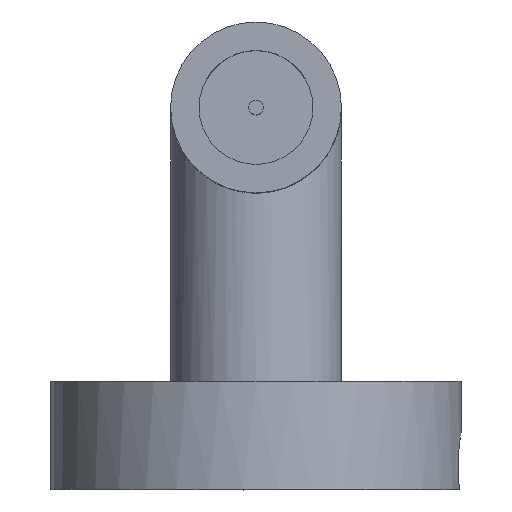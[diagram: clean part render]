
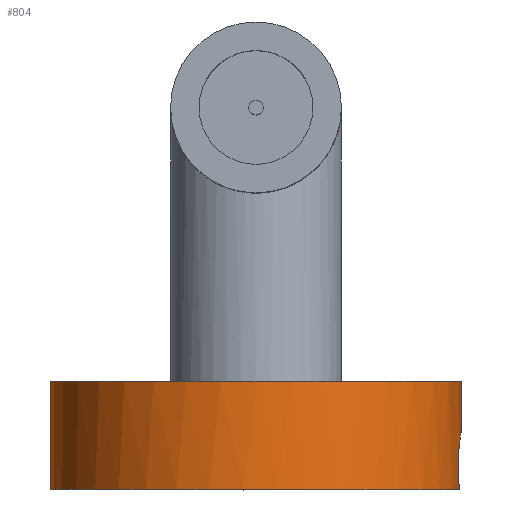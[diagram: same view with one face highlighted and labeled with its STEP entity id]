
A CAD part, top view. The second image highlights one B-rep face of the part: STEP entity #804.
In plain terms, the highlighted cylindrical face has radius 18 mm (diameter 36 mm), a partial arc.
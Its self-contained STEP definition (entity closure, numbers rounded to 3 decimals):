
#36=CARTESIAN_POINT('',(0.,0.,0.));
#37=DIRECTION('',(0.,1.,0.));
#38=DIRECTION('',(-1.,0.,0.));
#39=AXIS2_PLACEMENT_3D('',#36,#37,#38);
#221=CARTESIAN_POINT('',(0.,9.5,0.));
#222=DIRECTION('',(0.,-1.,0.));
#223=DIRECTION('',(1.,0.,0.));
#224=AXIS2_PLACEMENT_3D('',#221,#222,#223);
#274=CARTESIAN_POINT('',(18.,5.,0.));
#276=DIRECTION('',(0.,-1.,0.));
#277=VECTOR('',#276,9.5);
#278=CARTESIAN_POINT('',(-18.,9.5,0.));
#279=LINE('',#278,#277);
#280=CARTESIAN_POINT('',(18.,5.,0.));
#281=CARTESIAN_POINT('',(18.,5.,0.197));
#282=CARTESIAN_POINT('',(17.994,4.962,0.584));
#283=CARTESIAN_POINT('',(17.966,4.791,1.152));
#284=CARTESIAN_POINT('',(17.924,4.512,1.675));
#285=CARTESIAN_POINT('',(17.875,4.138,2.132));
#286=CARTESIAN_POINT('',(17.825,3.681,2.508));
#287=CARTESIAN_POINT('',(17.783,3.157,2.789));
#288=CARTESIAN_POINT('',(17.755,2.587,2.961));
#289=CARTESIAN_POINT('',(17.748,2.198,3.));
#290=CARTESIAN_POINT('',(17.748,2.,3.));
#292=CARTESIAN_POINT('',(17.748,2.,3.));
#293=CARTESIAN_POINT('',(17.748,1.817,3.));
#294=CARTESIAN_POINT('',(17.754,1.457,2.967));
#295=CARTESIAN_POINT('',(17.778,0.925,2.819));
#296=CARTESIAN_POINT('',(17.815,0.433,2.577));
#297=CARTESIAN_POINT('',(17.845,0.139,2.36));
#298=CARTESIAN_POINT('',(17.861,0.,2.236));
#300=DIRECTION('',(0.,-1.,0.));
#301=VECTOR('',#300,4.5);
#302=CARTESIAN_POINT('',(18.,9.5,0.));
#303=LINE('',#302,#301);
#381=CARTESIAN_POINT('',(17.861,0.,2.236));
#383=VERTEX_POINT('',#381);
#390=CARTESIAN_POINT('',(-18.,0.,0.));
#391=VERTEX_POINT('',#390);
#420=CARTESIAN_POINT('',(-18.,9.5,0.));
#421=CARTESIAN_POINT('',(18.,9.5,0.));
#422=VERTEX_POINT('',#420);
#423=VERTEX_POINT('',#421);
#433=VERTEX_POINT('',#274);
#444=VERTEX_POINT('',#292);
#791=CARTESIAN_POINT('',(0.,0.,0.));
#792=DIRECTION('',(0.,1.,0.));
#793=DIRECTION('',(1.,0.,0.));
#794=AXIS2_PLACEMENT_3D('',#791,#792,#793);
#795=CYLINDRICAL_SURFACE('',#794,18.);
#796=ORIENTED_EDGE('',*,*,#530,.T.);
#797=ORIENTED_EDGE('',*,*,#528,.T.);
#798=ORIENTED_EDGE('',*,*,#480,.F.);
#799=ORIENTED_EDGE('',*,*,#778,.F.);
#800=ORIENTED_EDGE('',*,*,#739,.F.);
#801=ORIENTED_EDGE('',*,*,#775,.T.);
#802=EDGE_LOOP('',(#796,#797,#798,#799,#800,#801));
#803=FACE_OUTER_BOUND('',#802,.F.);
#804=ADVANCED_FACE('',(#803),#795,.T.);
#40=CIRCLE('',#39,18.);
#225=CIRCLE('',#224,18.);
#291=B_SPLINE_CURVE_WITH_KNOTS('',3,(#280,#281,#282,#283,#284,#285,#286,#287,
#288,#289,#290),.UNSPECIFIED.,.F.,.F.,(4,1,1,1,1,1,1,1,4),(0.,0.125,0.25,
0.375,0.5,0.625,0.75,0.875,1.),.UNSPECIFIED.);
#299=B_SPLINE_CURVE_WITH_KNOTS('',3,(#292,#293,#294,#295,#296,#297,#298),
.UNSPECIFIED.,.F.,.F.,(4,1,1,1,4),(0.,0.25,0.5,0.75,1.),
.UNSPECIFIED.);
#480=EDGE_CURVE('',#391,#383,#40,.T.);
#528=EDGE_CURVE('',#444,#383,#299,.T.);
#530=EDGE_CURVE('',#433,#444,#291,.T.);
#739=EDGE_CURVE('',#423,#422,#225,.T.);
#775=EDGE_CURVE('',#423,#433,#303,.T.);
#778=EDGE_CURVE('',#422,#391,#279,.T.);
